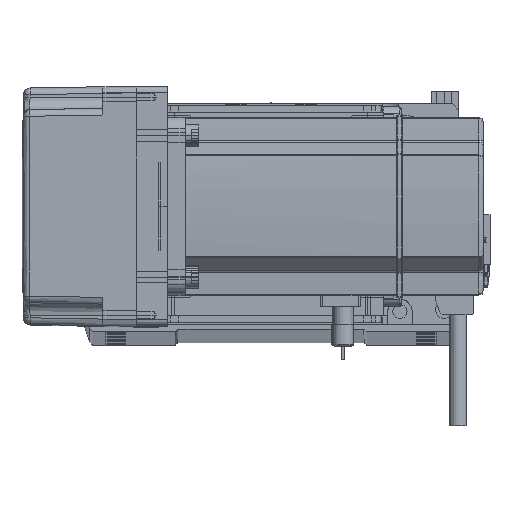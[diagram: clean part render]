
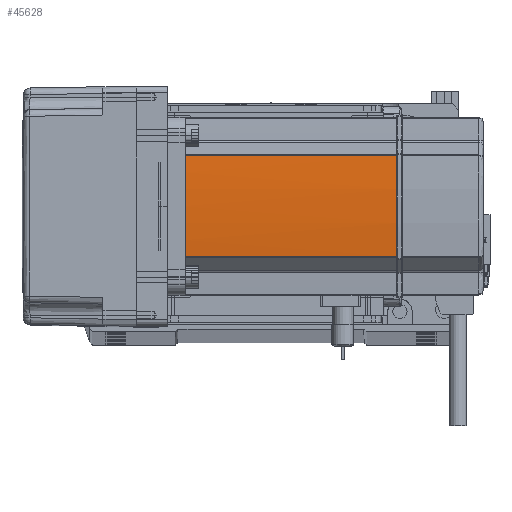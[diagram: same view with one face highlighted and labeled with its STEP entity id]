
A CAD part, top view. The second image highlights one B-rep face of the part: STEP entity #45628.
In plain terms, the highlighted cylindrical face has radius 270 mm (diameter 540 mm), a partial arc.
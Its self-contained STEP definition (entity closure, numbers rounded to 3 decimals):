
#1866 = CARTESIAN_POINT ( 'NONE',  ( -230., 0., 39. ) ) ;
#3842 = EDGE_CURVE ( 'NONE', #8901, #10234, #21782, .T. ) ;
#4581 = VECTOR ( 'NONE', #64833, 1000. ) ;
#4839 = DIRECTION ( 'NONE',  ( 0., 0., 1. ) ) ;
#6581 = CARTESIAN_POINT ( 'NONE',  ( -230., 0., 58. ) ) ;
#8190 = DIRECTION ( 'NONE',  ( 0., 0., -1. ) ) ;
#8901 = VERTEX_POINT ( 'NONE', #11266 ) ;
#10234 = VERTEX_POINT ( 'NONE', #43262 ) ;
#11263 = CYLINDRICAL_SURFACE ( 'NONE', #34539, 270. ) ;
#11266 = CARTESIAN_POINT ( 'NONE',  ( 39.042, 22.724, 39. ) ) ;
#12855 = FACE_OUTER_BOUND ( 'NONE', #25597, .T. ) ;
#14983 = DIRECTION ( 'NONE',  ( 0., 0., -1. ) ) ;
#15023 = B_SPLINE_CURVE_WITH_KNOTS ( 'NONE', 3,
 ( #39925, #51028, #20594, #25105 ),
 .UNSPECIFIED., .F., .F.,
 ( 4, 4 ),
 ( 0., 1. ),
 .UNSPECIFIED. ) ;
#18546 = EDGE_CURVE ( 'NONE', #10234, #21261, #26030, .T. ) ;
#18976 = AXIS2_PLACEMENT_3D ( 'NONE', #62008, #14983, #51775 ) ;
#20594 = CARTESIAN_POINT ( 'NONE',  ( 40., 0.042, 134. ) ) ;
#20621 = CIRCLE ( 'NONE', #49412, 270. ) ;
#20713 = CARTESIAN_POINT ( 'NONE',  ( 39.042, -22.724, 134. ) ) ;
#21098 = EDGE_CURVE ( 'NONE', #21800, #53528, #63901, .T. ) ;
#21261 = VERTEX_POINT ( 'NONE', #67346 ) ;
#21658 = DIRECTION ( 'NONE',  ( 0., 0., -1. ) ) ;
#21782 = LINE ( 'NONE', #25517, #42850 ) ;
#21800 = VERTEX_POINT ( 'NONE', #20713 ) ;
#22507 = ORIENTED_EDGE ( 'NONE', *, *, #3842, .T. ) ;
#23787 = EDGE_CURVE ( 'NONE', #8901, #53528, #20621, .T. ) ;
#25105 = CARTESIAN_POINT ( 'NONE',  ( 40., 0.127, 134. ) ) ;
#25517 = CARTESIAN_POINT ( 'NONE',  ( 39.042, 22.724, 58. ) ) ;
#25597 = EDGE_LOOP ( 'NONE', ( #67198, #50264, #22507, #39177, #59204, #44373 ) ) ;
#26030 = CIRCLE ( 'NONE', #18976, 270. ) ;
#33682 = DIRECTION ( 'NONE',  ( -1., 0., 0. ) ) ;
#34539 = AXIS2_PLACEMENT_3D ( 'NONE', #6581, #21658, #37560 ) ;
#37560 = DIRECTION ( 'NONE',  ( -1., 0., 0. ) ) ;
#38917 = CARTESIAN_POINT ( 'NONE',  ( -230., 0., 134. ) ) ;
#39177 = ORIENTED_EDGE ( 'NONE', *, *, #18546, .T. ) ;
#39742 = VERTEX_POINT ( 'NONE', #54736 ) ;
#39925 = CARTESIAN_POINT ( 'NONE',  ( 40., -0.127, 134. ) ) ;
#40373 = EDGE_CURVE ( 'NONE', #39742, #21261, #15023, .T. ) ;
#42850 = VECTOR ( 'NONE', #4839, 1000. ) ;
#43260 = CIRCLE ( 'NONE', #63501, 270. ) ;
#43262 = CARTESIAN_POINT ( 'NONE',  ( 39.042, 22.724, 134. ) ) ;
#43526 = DIRECTION ( 'NONE',  ( 0., 0., -1. ) ) ;
#44064 = CARTESIAN_POINT ( 'NONE',  ( 39.042, -22.724, 39. ) ) ;
#44373 = ORIENTED_EDGE ( 'NONE', *, *, #49951, .T. ) ;
#45628 = ADVANCED_FACE ( 'NONE', ( #12855 ), #11263, .T. ) ;
#48962 = CARTESIAN_POINT ( 'NONE',  ( 39.042, -22.724, 58. ) ) ;
#49412 = AXIS2_PLACEMENT_3D ( 'NONE', #1866, #43526, #59209 ) ;
#49951 = EDGE_CURVE ( 'NONE', #39742, #21800, #43260, .T. ) ;
#50264 = ORIENTED_EDGE ( 'NONE', *, *, #23787, .F. ) ;
#51028 = CARTESIAN_POINT ( 'NONE',  ( 40., -0.042, 134. ) ) ;
#51775 = DIRECTION ( 'NONE',  ( -1., 0., 0. ) ) ;
#53528 = VERTEX_POINT ( 'NONE', #44064 ) ;
#54736 = CARTESIAN_POINT ( 'NONE',  ( 40., -0.127, 134. ) ) ;
#59204 = ORIENTED_EDGE ( 'NONE', *, *, #40373, .F. ) ;
#59209 = DIRECTION ( 'NONE',  ( -1., 0., 0. ) ) ;
#62008 = CARTESIAN_POINT ( 'NONE',  ( -230., 0., 134. ) ) ;
#63501 = AXIS2_PLACEMENT_3D ( 'NONE', #38917, #8190, #33682 ) ;
#63901 = LINE ( 'NONE', #48962, #4581 ) ;
#64833 = DIRECTION ( 'NONE',  ( 0., 0., -1. ) ) ;
#67198 = ORIENTED_EDGE ( 'NONE', *, *, #21098, .T. ) ;
#67346 = CARTESIAN_POINT ( 'NONE',  ( 40., 0.127, 134. ) ) ;
